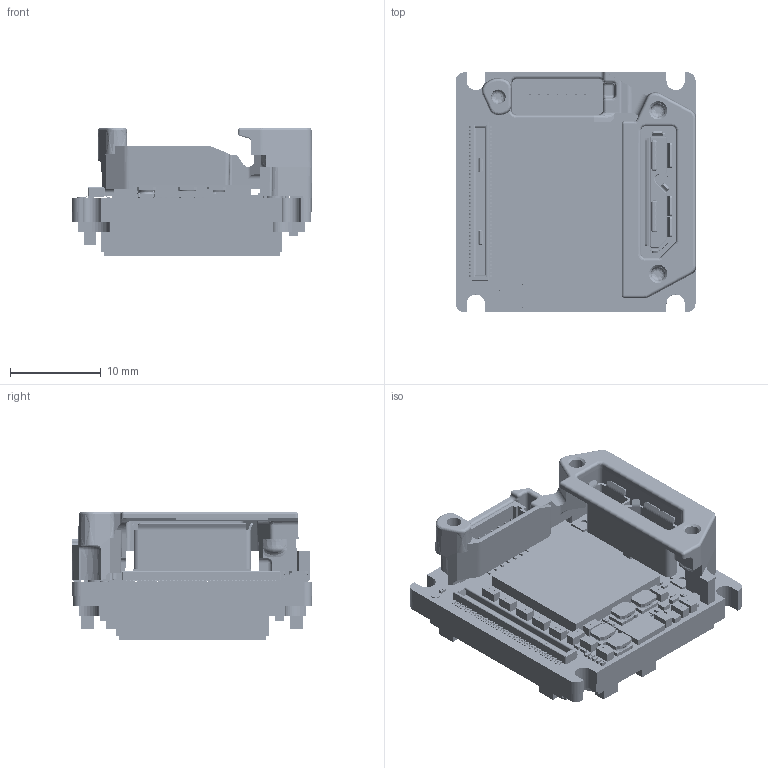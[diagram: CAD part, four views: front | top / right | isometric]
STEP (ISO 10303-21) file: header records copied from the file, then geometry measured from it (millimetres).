
FILE_DESCRIPTION (( 'STEP AP214' ), '1' );
FILE_NAME ('Alvium-USB180-Bare-Board-IMX174-249.STEP', '2022-12-21T15:05:39', ( '' ), ( '' ), 'SwSTEP 2.0', 'SolidWorks 2021', '' );
FILE_SCHEMA (( 'AUTOMOTIVE_DESIGN' ));
Length unit declared in the file: millimetre
Products named in the file (1): Alvium-USB180-Bare-Board-IMX174-249
Bounding box: 26.48 x 26.45 x 14.14 mm (x, y, z)
Volume: 4339.2 mm3; surface area: 6528.8 mm2
Topology: 187 solids, 187 shells, 11744 faces, 29360 edges, 19069 vertices
Faces by surface type: plane 6217, bspline 4253, cylinder 1170, cone 46, torus 40, sphere 18
Entity records: 718834 total; most frequent: CARTESIAN_POINT 335565, ORIENTED_EDGE 58702, DIRECTION 38099, EDGE_CURVE 29351, VERTEX_POINT 19069, VECTOR 18269, LINE 18269, EDGE_LOOP 12848
